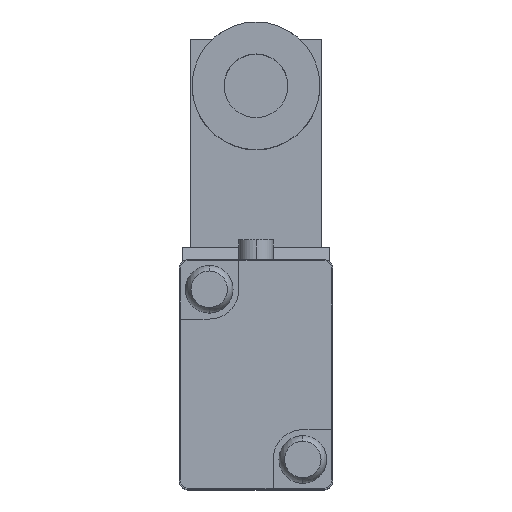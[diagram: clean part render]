
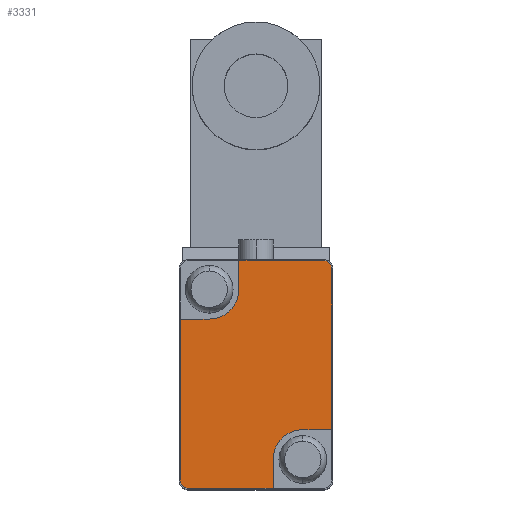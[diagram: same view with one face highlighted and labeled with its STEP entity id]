
A CAD part, top view. The second image highlights one B-rep face of the part: STEP entity #3331.
In plain terms, the highlighted planar face has unit normal (0, 0, 1).
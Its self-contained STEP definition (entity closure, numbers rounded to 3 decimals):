
#5 = DIRECTION ( 'NONE',  ( 1., 0., 0. ) ) ;
#14 = DIRECTION ( 'NONE',  ( 1., 0., 0. ) ) ;
#58 = LINE ( 'NONE', #1362, #1329 ) ;
#75 = CARTESIAN_POINT ( 'NONE',  ( 5.5, -10., 6.6 ) ) ;
#86 = EDGE_CURVE ( 'NONE', #1986, #3928, #1739, .T. ) ;
#91 = CARTESIAN_POINT ( 'NONE',  ( 2., -10., 6.6 ) ) ;
#109 = CIRCLE ( 'NONE', #3169, 1. ) ;
#254 = CARTESIAN_POINT ( 'NONE',  ( 7.9, 13.4, 6.6 ) ) ;
#276 = EDGE_CURVE ( 'NONE', #2430, #1917, #1104, .T. ) ;
#345 = EDGE_CURVE ( 'NONE', #1029, #1292, #1247, .T. ) ;
#521 = VECTOR ( 'NONE', #1414, 1000. ) ;
#651 = CARTESIAN_POINT ( 'NONE',  ( -8.9, 6.5, 6.6 ) ) ;
#817 = CARTESIAN_POINT ( 'NONE',  ( -8.9, -12.4, 6.6 ) ) ;
#819 = DIRECTION ( 'NONE',  ( 0., 0., 1. ) ) ;
#841 = DIRECTION ( 'NONE',  ( 0., 0., 1. ) ) ;
#893 = VERTEX_POINT ( 'NONE', #1635 ) ;
#898 = DIRECTION ( 'NONE',  ( -1., 0., 0. ) ) ;
#958 = EDGE_CURVE ( 'NONE', #1292, #2430, #109, .T. ) ;
#975 = LINE ( 'NONE', #2331, #1732 ) ;
#1002 = VECTOR ( 'NONE', #898, 1000. ) ;
#1029 = VERTEX_POINT ( 'NONE', #651 ) ;
#1104 = LINE ( 'NONE', #1442, #1943 ) ;
#1191 = ORIENTED_EDGE ( 'NONE', *, *, #4037, .T. ) ;
#1247 = LINE ( 'NONE', #2778, #4102 ) ;
#1292 = VERTEX_POINT ( 'NONE', #817 ) ;
#1329 = VECTOR ( 'NONE', #1748, 1000. ) ;
#1362 = CARTESIAN_POINT ( 'NONE',  ( 7.9, 13.4, 6.6 ) ) ;
#1400 = CARTESIAN_POINT ( 'NONE',  ( -7.9, -6.5, 6.6 ) ) ;
#1404 = AXIS2_PLACEMENT_3D ( 'NONE', #3217, #3858, #3583 ) ;
#1414 = DIRECTION ( 'NONE',  ( 0., 1., 0. ) ) ;
#1431 = ORIENTED_EDGE ( 'NONE', *, *, #86, .F. ) ;
#1442 = CARTESIAN_POINT ( 'NONE',  ( -7.9, -13.4, 6.6 ) ) ;
#1446 = VERTEX_POINT ( 'NONE', #2934 ) ;
#1475 = VERTEX_POINT ( 'NONE', #1490 ) ;
#1490 = CARTESIAN_POINT ( 'NONE',  ( 8.9, 12.4, 6.6 ) ) ;
#1508 = DIRECTION ( 'NONE',  ( 0., -1., 0. ) ) ;
#1532 = CARTESIAN_POINT ( 'NONE',  ( 2., -13.4, 6.6 ) ) ;
#1556 = ORIENTED_EDGE ( 'NONE', *, *, #1811, .T. ) ;
#1588 = CARTESIAN_POINT ( 'NONE',  ( -7.9, -12.4, 6.6 ) ) ;
#1635 = CARTESIAN_POINT ( 'NONE',  ( 8.9, -6.5, 6.6 ) ) ;
#1676 = EDGE_CURVE ( 'NONE', #3928, #1917, #3134, .T. ) ;
#1693 = EDGE_LOOP ( 'NONE', ( #3532, #3347, #3266, #4055, #4023, #3061, #1431, #2590, #1556, #1191, #1781, #3537 ) ) ;
#1732 = VECTOR ( 'NONE', #3926, 1000. ) ;
#1739 = CIRCLE ( 'NONE', #2143, 3.5 ) ;
#1748 = DIRECTION ( 'NONE',  ( -1., 0., 0. ) ) ;
#1781 = ORIENTED_EDGE ( 'NONE', *, *, #2640, .T. ) ;
#1802 = AXIS2_PLACEMENT_3D ( 'NONE', #2808, #819, #2117 ) ;
#1811 = EDGE_CURVE ( 'NONE', #893, #1475, #975, .T. ) ;
#1917 = VERTEX_POINT ( 'NONE', #1532 ) ;
#1926 = PLANE ( 'NONE',  #1404 ) ;
#1943 = VECTOR ( 'NONE', #2417, 1000. ) ;
#1986 = VERTEX_POINT ( 'NONE', #2238 ) ;
#2024 = VERTEX_POINT ( 'NONE', #3791 ) ;
#2116 = EDGE_CURVE ( 'NONE', #1446, #2024, #3835, .T. ) ;
#2117 = DIRECTION ( 'NONE',  ( 1., 0., 0. ) ) ;
#2143 = AXIS2_PLACEMENT_3D ( 'NONE', #75, #3272, #14 ) ;
#2238 = CARTESIAN_POINT ( 'NONE',  ( 5.5, -6.5, 6.6 ) ) ;
#2272 = VECTOR ( 'NONE', #1508, 1000. ) ;
#2298 = DIRECTION ( 'NONE',  ( 1., 0., 0. ) ) ;
#2331 = CARTESIAN_POINT ( 'NONE',  ( 8.9, -12.4, 6.6 ) ) ;
#2417 = DIRECTION ( 'NONE',  ( 1., 0., 0. ) ) ;
#2430 = VERTEX_POINT ( 'NONE', #2448 ) ;
#2448 = CARTESIAN_POINT ( 'NONE',  ( -7.9, -13.4, 6.6 ) ) ;
#2478 = DIRECTION ( 'NONE',  ( 0., -1., 0. ) ) ;
#2562 = VERTEX_POINT ( 'NONE', #3042 ) ;
#2590 = ORIENTED_EDGE ( 'NONE', *, *, #3004, .T. ) ;
#2640 = EDGE_CURVE ( 'NONE', #2875, #2562, #58, .T. ) ;
#2670 = LINE ( 'NONE', #1400, #4172 ) ;
#2778 = CARTESIAN_POINT ( 'NONE',  ( -8.9, 12.4, 6.6 ) ) ;
#2797 = CARTESIAN_POINT ( 'NONE',  ( 2., -10., 6.6 ) ) ;
#2808 = CARTESIAN_POINT ( 'NONE',  ( -5.5, 10., 6.6 ) ) ;
#2875 = VERTEX_POINT ( 'NONE', #254 ) ;
#2934 = CARTESIAN_POINT ( 'NONE',  ( -5.5, 6.5, 6.6 ) ) ;
#3001 = LINE ( 'NONE', #4015, #521 ) ;
#3004 = EDGE_CURVE ( 'NONE', #1986, #893, #2670, .T. ) ;
#3042 = CARTESIAN_POINT ( 'NONE',  ( -2., 13.4, 6.6 ) ) ;
#3061 = ORIENTED_EDGE ( 'NONE', *, *, #1676, .F. ) ;
#3104 = CIRCLE ( 'NONE', #3653, 1. ) ;
#3134 = LINE ( 'NONE', #2797, #2272 ) ;
#3169 = AXIS2_PLACEMENT_3D ( 'NONE', #1588, #3198, #5 ) ;
#3198 = DIRECTION ( 'NONE',  ( 0., 0., 1. ) ) ;
#3217 = CARTESIAN_POINT ( 'NONE',  ( -7.9, 12.4, 6.6 ) ) ;
#3266 = ORIENTED_EDGE ( 'NONE', *, *, #345, .T. ) ;
#3272 = DIRECTION ( 'NONE',  ( 0., 0., 1. ) ) ;
#3331 = ADVANCED_FACE ( 'NONE', ( #4162 ), #1926, .T. ) ;
#3347 = ORIENTED_EDGE ( 'NONE', *, *, #3594, .T. ) ;
#3393 = EDGE_CURVE ( 'NONE', #2024, #2562, #3001, .T. ) ;
#3453 = CARTESIAN_POINT ( 'NONE',  ( -7.9, 6.5, 6.6 ) ) ;
#3532 = ORIENTED_EDGE ( 'NONE', *, *, #2116, .F. ) ;
#3537 = ORIENTED_EDGE ( 'NONE', *, *, #3393, .F. ) ;
#3583 = DIRECTION ( 'NONE',  ( 1., 0., 0. ) ) ;
#3594 = EDGE_CURVE ( 'NONE', #1446, #1029, #3761, .T. ) ;
#3653 = AXIS2_PLACEMENT_3D ( 'NONE', #4066, #841, #3771 ) ;
#3761 = LINE ( 'NONE', #3453, #1002 ) ;
#3771 = DIRECTION ( 'NONE',  ( 1., 0., 0. ) ) ;
#3791 = CARTESIAN_POINT ( 'NONE',  ( -2., 10., 6.6 ) ) ;
#3835 = CIRCLE ( 'NONE', #1802, 3.5 ) ;
#3858 = DIRECTION ( 'NONE',  ( 0., 0., 1. ) ) ;
#3926 = DIRECTION ( 'NONE',  ( 0., 1., 0. ) ) ;
#3928 = VERTEX_POINT ( 'NONE', #91 ) ;
#4015 = CARTESIAN_POINT ( 'NONE',  ( -2., 10., 6.6 ) ) ;
#4023 = ORIENTED_EDGE ( 'NONE', *, *, #276, .T. ) ;
#4037 = EDGE_CURVE ( 'NONE', #1475, #2875, #3104, .T. ) ;
#4055 = ORIENTED_EDGE ( 'NONE', *, *, #958, .T. ) ;
#4066 = CARTESIAN_POINT ( 'NONE',  ( 7.9, 12.4, 6.6 ) ) ;
#4102 = VECTOR ( 'NONE', #2478, 1000. ) ;
#4162 = FACE_OUTER_BOUND ( 'NONE', #1693, .T. ) ;
#4172 = VECTOR ( 'NONE', #2298, 1000. ) ;
